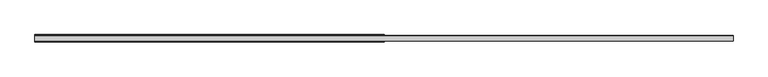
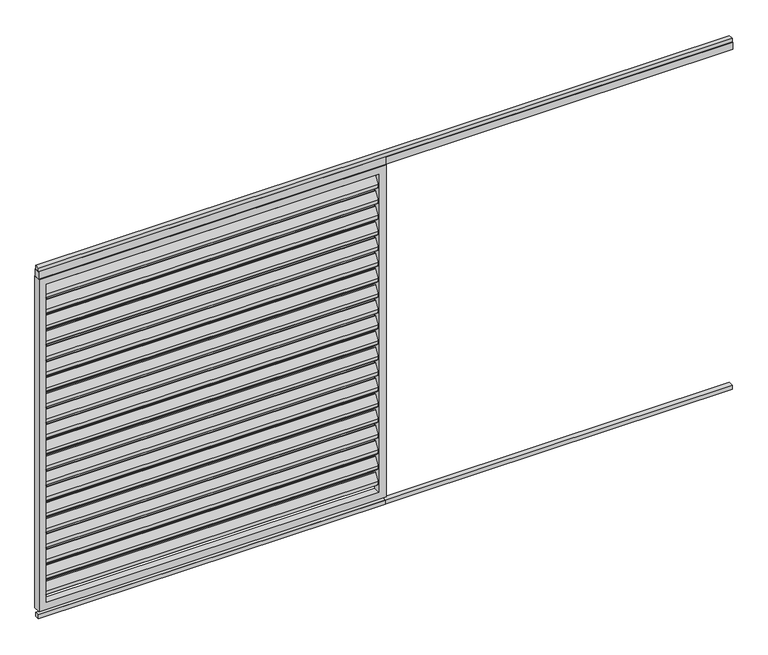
"""IFC4 building model written with IfcOpenShell, lengths in millimetres: proxy geometry, Renson_Algarve_Loggia_Paro_Aluminium : Renson_Algarve_Loggia_Paro_Aluminium."""

from ifc_helpers import new_model, si_unit, point, frame, frame_2d, origin, origin_with_axes, place, context, project, spatial, polyline, circle_curve, trimmed, segment, composite_curve, outline, extrude, source, transform, mapped, element, save


def generic_models_7b957c62(model_context):
    return source(origin(), model_context, "Body", "SweptSolid", [
        extrude(outline(composite_curve([segment(trimmed(circle_curve(frame_2d((12.6675921, 1892.6587719)), 3.0), [point((10.1515804, 1894.292689))], [point((15.6675921, 1892.6587719))], False, "CARTESIAN"), True, "CONTINUOUS"), segment(polyline([(15.6675921, 1892.6587719), (15.6675921, 1874.2979873)]), True, "CONTINUOUS"), segment(trimmed(circle_curve(frame_2d((12.6675921, 1874.2979873)), 3.0), [point((15.6675921, 1874.2979873))], [point((15.1836038, 1872.6640702))], False, "CARTESIAN"), True, "CONTINUOUS"), segment(polyline([(15.1836038, 1872.6640702), (-8.8163962, 1835.707311)]), True, "CONTINUOUS"), segment(trimmed(circle_curve(frame_2d((-11.3324079, 1837.3412281)), 3.0), [point((-8.8163962, 1835.707311))], [point((-14.3324079, 1837.3412281))], False, "CARTESIAN"), True, "CONTINUOUS"), segment(polyline([(-14.3324079, 1837.3412281), (-14.3324079, 1856.5906532), (10.1515804, 1894.292689)]), True, "CONTINUOUS")], self_intersect=False)), frame((-905.0, 0.0, 0.0), z_axis=(1.0, 0.0, 0.0), x_axis=(0.0, 1.0, 0.0)), (0.0, 0.0, 1.0), 1810.0),
        extrude(outline(composite_curve([segment(trimmed(circle_curve(frame_2d((12.6675921, 1802.6587719)), 3.0), [point((10.1515804, 1804.292689))], [point((15.6675921, 1802.6587719))], False, "CARTESIAN"), True, "CONTINUOUS"), segment(polyline([(15.6675921, 1802.6587719), (15.6675921, 1784.2979873)]), True, "CONTINUOUS"), segment(trimmed(circle_curve(frame_2d((12.6675921, 1784.2979873)), 3.0), [point((15.6675921, 1784.2979873))], [point((15.1836038, 1782.6640702))], False, "CARTESIAN"), True, "CONTINUOUS"), segment(polyline([(15.1836038, 1782.6640702), (-8.8163962, 1745.707311)]), True, "CONTINUOUS"), segment(trimmed(circle_curve(frame_2d((-11.3324079, 1747.3412281)), 3.0), [point((-8.8163962, 1745.707311))], [point((-14.3324079, 1747.3412281))], False, "CARTESIAN"), True, "CONTINUOUS"), segment(polyline([(-14.3324079, 1747.3412281), (-14.3324079, 1766.5906532), (10.1515804, 1804.292689)]), True, "CONTINUOUS")], self_intersect=False)), frame((-905.0, 0.0, 0.0), z_axis=(1.0, 0.0, 0.0), x_axis=(0.0, 1.0, 0.0)), (0.0, 0.0, 1.0), 1810.0),
        extrude(outline(composite_curve([segment(trimmed(circle_curve(frame_2d((12.6675921, 1712.6587719)), 3.0), [point((10.1515804, 1714.292689))], [point((15.6675921, 1712.6587719))], False, "CARTESIAN"), True, "CONTINUOUS"), segment(polyline([(15.6675921, 1712.6587719), (15.6675921, 1694.2979873)]), True, "CONTINUOUS"), segment(trimmed(circle_curve(frame_2d((12.6675921, 1694.2979873)), 3.0), [point((15.6675921, 1694.2979873))], [point((15.1836038, 1692.6640702))], False, "CARTESIAN"), True, "CONTINUOUS"), segment(polyline([(15.1836038, 1692.6640702), (-8.8163962, 1655.707311)]), True, "CONTINUOUS"), segment(trimmed(circle_curve(frame_2d((-11.3324079, 1657.3412281)), 3.0), [point((-8.8163962, 1655.707311))], [point((-14.3324079, 1657.3412281))], False, "CARTESIAN"), True, "CONTINUOUS"), segment(polyline([(-14.3324079, 1657.3412281), (-14.3324079, 1676.5906532), (10.1515804, 1714.292689)]), True, "CONTINUOUS")], self_intersect=False)), frame((-905.0, 0.0, 0.0), z_axis=(1.0, 0.0, 0.0), x_axis=(0.0, 1.0, 0.0)), (0.0, 0.0, 1.0), 1810.0),
        extrude(outline(composite_curve([segment(trimmed(circle_curve(frame_2d((12.6675921, 1622.6587719)), 3.0), [point((10.1515804, 1624.292689))], [point((15.6675921, 1622.6587719))], False, "CARTESIAN"), True, "CONTINUOUS"), segment(polyline([(15.6675921, 1622.6587719), (15.6675921, 1604.2979873)]), True, "CONTINUOUS"), segment(trimmed(circle_curve(frame_2d((12.6675921, 1604.2979873)), 3.0), [point((15.6675921, 1604.2979873))], [point((15.1836038, 1602.6640702))], False, "CARTESIAN"), True, "CONTINUOUS"), segment(polyline([(15.1836038, 1602.6640702), (-8.8163962, 1565.707311)]), True, "CONTINUOUS"), segment(trimmed(circle_curve(frame_2d((-11.3324079, 1567.3412281)), 3.0), [point((-8.8163962, 1565.707311))], [point((-14.3324079, 1567.3412281))], False, "CARTESIAN"), True, "CONTINUOUS"), segment(polyline([(-14.3324079, 1567.3412281), (-14.3324079, 1586.5906532), (10.1515804, 1624.292689)]), True, "CONTINUOUS")], self_intersect=False)), frame((-905.0, 0.0, 0.0), z_axis=(1.0, 0.0, 0.0), x_axis=(0.0, 1.0, 0.0)), (0.0, 0.0, 1.0), 1810.0),
        extrude(outline(composite_curve([segment(trimmed(circle_curve(frame_2d((12.6675921, 1532.6587719)), 3.0), [point((10.1515804, 1534.292689))], [point((15.6675921, 1532.6587719))], False, "CARTESIAN"), True, "CONTINUOUS"), segment(polyline([(15.6675921, 1532.6587719), (15.6675921, 1514.2979873)]), True, "CONTINUOUS"), segment(trimmed(circle_curve(frame_2d((12.6675921, 1514.2979873)), 3.0), [point((15.6675921, 1514.2979873))], [point((15.1836038, 1512.6640702))], False, "CARTESIAN"), True, "CONTINUOUS"), segment(polyline([(15.1836038, 1512.6640702), (-8.8163962, 1475.707311)]), True, "CONTINUOUS"), segment(trimmed(circle_curve(frame_2d((-11.3324079, 1477.3412281)), 3.0), [point((-8.8163962, 1475.707311))], [point((-14.3324079, 1477.3412281))], False, "CARTESIAN"), True, "CONTINUOUS"), segment(polyline([(-14.3324079, 1477.3412281), (-14.3324079, 1496.5906532), (10.1515804, 1534.292689)]), True, "CONTINUOUS")], self_intersect=False)), frame((-905.0, 0.0, 0.0), z_axis=(1.0, 0.0, 0.0), x_axis=(0.0, 1.0, 0.0)), (0.0, 0.0, 1.0), 1810.0),
        extrude(outline(composite_curve([segment(trimmed(circle_curve(frame_2d((12.6675921, 1442.6587719)), 3.0), [point((10.1515804, 1444.292689))], [point((15.6675921, 1442.6587719))], False, "CARTESIAN"), True, "CONTINUOUS"), segment(polyline([(15.6675921, 1442.6587719), (15.6675921, 1424.2979873)]), True, "CONTINUOUS"), segment(trimmed(circle_curve(frame_2d((12.6675921, 1424.2979873)), 3.0), [point((15.6675921, 1424.2979873))], [point((15.1836038, 1422.6640702))], False, "CARTESIAN"), True, "CONTINUOUS"), segment(polyline([(15.1836038, 1422.6640702), (-8.8163962, 1385.707311)]), True, "CONTINUOUS"), segment(trimmed(circle_curve(frame_2d((-11.3324079, 1387.3412281)), 3.0), [point((-8.8163962, 1385.707311))], [point((-14.3324079, 1387.3412281))], False, "CARTESIAN"), True, "CONTINUOUS"), segment(polyline([(-14.3324079, 1387.3412281), (-14.3324079, 1406.5906532), (10.1515804, 1444.292689)]), True, "CONTINUOUS")], self_intersect=False)), frame((-905.0, 0.0, 0.0), z_axis=(1.0, 0.0, 0.0), x_axis=(0.0, 1.0, 0.0)), (0.0, 0.0, 1.0), 1810.0),
        extrude(outline(composite_curve([segment(trimmed(circle_curve(frame_2d((12.6675921, 1352.6587719)), 3.0), [point((10.1515804, 1354.292689))], [point((15.6675921, 1352.6587719))], False, "CARTESIAN"), True, "CONTINUOUS"), segment(polyline([(15.6675921, 1352.6587719), (15.6675921, 1334.2979873)]), True, "CONTINUOUS"), segment(trimmed(circle_curve(frame_2d((12.6675921, 1334.2979873)), 3.0), [point((15.6675921, 1334.2979873))], [point((15.1836038, 1332.6640702))], False, "CARTESIAN"), True, "CONTINUOUS"), segment(polyline([(15.1836038, 1332.6640702), (-8.8163962, 1295.707311)]), True, "CONTINUOUS"), segment(trimmed(circle_curve(frame_2d((-11.3324079, 1297.3412281)), 3.0), [point((-8.8163962, 1295.707311))], [point((-14.3324079, 1297.3412281))], False, "CARTESIAN"), True, "CONTINUOUS"), segment(polyline([(-14.3324079, 1297.3412281), (-14.3324079, 1316.5906532), (10.1515804, 1354.292689)]), True, "CONTINUOUS")], self_intersect=False)), frame((-905.0, 0.0, 0.0), z_axis=(1.0, 0.0, 0.0), x_axis=(0.0, 1.0, 0.0)), (0.0, 0.0, 1.0), 1810.0),
        extrude(outline(composite_curve([segment(trimmed(circle_curve(frame_2d((12.6675921, 1262.6587719)), 3.0), [point((10.1515804, 1264.292689))], [point((15.6675921, 1262.6587719))], False, "CARTESIAN"), True, "CONTINUOUS"), segment(polyline([(15.6675921, 1262.6587719), (15.6675921, 1244.2979873)]), True, "CONTINUOUS"), segment(trimmed(circle_curve(frame_2d((12.6675921, 1244.2979873)), 3.0), [point((15.6675921, 1244.2979873))], [point((15.1836038, 1242.6640702))], False, "CARTESIAN"), True, "CONTINUOUS"), segment(polyline([(15.1836038, 1242.6640702), (-8.8163962, 1205.707311)]), True, "CONTINUOUS"), segment(trimmed(circle_curve(frame_2d((-11.3324079, 1207.3412281)), 3.0), [point((-8.8163962, 1205.707311))], [point((-14.3324079, 1207.3412281))], False, "CARTESIAN"), True, "CONTINUOUS"), segment(polyline([(-14.3324079, 1207.3412281), (-14.3324079, 1226.5906532), (10.1515804, 1264.292689)]), True, "CONTINUOUS")], self_intersect=False)), frame((-905.0, 0.0, 0.0), z_axis=(1.0, 0.0, 0.0), x_axis=(0.0, 1.0, 0.0)), (0.0, 0.0, 1.0), 1810.0),
        extrude(outline(composite_curve([segment(trimmed(circle_curve(frame_2d((12.6675921, 1172.6587719)), 3.0), [point((10.1515804, 1174.292689))], [point((15.6675921, 1172.6587719))], False, "CARTESIAN"), True, "CONTINUOUS"), segment(polyline([(15.6675921, 1172.6587719), (15.6675921, 1154.2979873)]), True, "CONTINUOUS"), segment(trimmed(circle_curve(frame_2d((12.6675921, 1154.2979873)), 3.0), [point((15.6675921, 1154.2979873))], [point((15.1836038, 1152.6640702))], False, "CARTESIAN"), True, "CONTINUOUS"), segment(polyline([(15.1836038, 1152.6640702), (-8.8163962, 1115.707311)]), True, "CONTINUOUS"), segment(trimmed(circle_curve(frame_2d((-11.3324079, 1117.3412281)), 3.0), [point((-8.8163962, 1115.707311))], [point((-14.3324079, 1117.3412281))], False, "CARTESIAN"), True, "CONTINUOUS"), segment(polyline([(-14.3324079, 1117.3412281), (-14.3324079, 1136.5906532), (10.1515804, 1174.292689)]), True, "CONTINUOUS")], self_intersect=False)), frame((-905.0, 0.0, 0.0), z_axis=(1.0, 0.0, 0.0), x_axis=(0.0, 1.0, 0.0)), (0.0, 0.0, 1.0), 1810.0),
        extrude(outline(composite_curve([segment(trimmed(circle_curve(frame_2d((12.6675921, 1082.6587719)), 3.0), [point((10.1515804, 1084.292689))], [point((15.6675921, 1082.6587719))], False, "CARTESIAN"), True, "CONTINUOUS"), segment(polyline([(15.6675921, 1082.6587719), (15.6675921, 1064.2979873)]), True, "CONTINUOUS"), segment(trimmed(circle_curve(frame_2d((12.6675921, 1064.2979873)), 3.0), [point((15.6675921, 1064.2979873))], [point((15.1836038, 1062.6640702))], False, "CARTESIAN"), True, "CONTINUOUS"), segment(polyline([(15.1836038, 1062.6640702), (-8.8163962, 1025.707311)]), True, "CONTINUOUS"), segment(trimmed(circle_curve(frame_2d((-11.3324079, 1027.3412281)), 3.0), [point((-8.8163962, 1025.707311))], [point((-14.3324079, 1027.3412281))], False, "CARTESIAN"), True, "CONTINUOUS"), segment(polyline([(-14.3324079, 1027.3412281), (-14.3324079, 1046.5906532), (10.1515804, 1084.292689)]), True, "CONTINUOUS")], self_intersect=False)), frame((-905.0, 0.0, 0.0), z_axis=(1.0, 0.0, 0.0), x_axis=(0.0, 1.0, 0.0)), (0.0, 0.0, 1.0), 1810.0),
        extrude(outline(composite_curve([segment(trimmed(circle_curve(frame_2d((12.6675921, 992.6587719)), 3.0), [point((10.1515804, 994.292689))], [point((15.6675921, 992.6587719))], False, "CARTESIAN"), True, "CONTINUOUS"), segment(polyline([(15.6675921, 992.6587719), (15.6675921, 974.2979873)]), True, "CONTINUOUS"), segment(trimmed(circle_curve(frame_2d((12.6675921, 974.2979873)), 3.0), [point((15.6675921, 974.2979873))], [point((15.1836038, 972.6640702))], False, "CARTESIAN"), True, "CONTINUOUS"), segment(polyline([(15.1836038, 972.6640702), (-8.8163962, 935.707311)]), True, "CONTINUOUS"), segment(trimmed(circle_curve(frame_2d((-11.3324079, 937.3412281)), 3.0), [point((-8.8163962, 935.707311))], [point((-14.3324079, 937.3412281))], False, "CARTESIAN"), True, "CONTINUOUS"), segment(polyline([(-14.3324079, 937.3412281), (-14.3324079, 956.5906532), (10.1515804, 994.292689)]), True, "CONTINUOUS")], self_intersect=False)), frame((-905.0, 0.0, 0.0), z_axis=(1.0, 0.0, 0.0), x_axis=(0.0, 1.0, 0.0)), (0.0, 0.0, 1.0), 1810.0),
        extrude(outline(composite_curve([segment(trimmed(circle_curve(frame_2d((12.6675921, 902.6587719)), 3.0), [point((10.1515804, 904.292689))], [point((15.6675921, 902.6587719))], False, "CARTESIAN"), True, "CONTINUOUS"), segment(polyline([(15.6675921, 902.6587719), (15.6675921, 884.2979873)]), True, "CONTINUOUS"), segment(trimmed(circle_curve(frame_2d((12.6675921, 884.2979873)), 3.0), [point((15.6675921, 884.2979873))], [point((15.1836038, 882.6640702))], False, "CARTESIAN"), True, "CONTINUOUS"), segment(polyline([(15.1836038, 882.6640702), (-8.8163962, 845.707311)]), True, "CONTINUOUS"), segment(trimmed(circle_curve(frame_2d((-11.3324079, 847.3412281)), 3.0), [point((-8.8163962, 845.707311))], [point((-14.3324079, 847.3412281))], False, "CARTESIAN"), True, "CONTINUOUS"), segment(polyline([(-14.3324079, 847.3412281), (-14.3324079, 866.5906532), (10.1515804, 904.292689)]), True, "CONTINUOUS")], self_intersect=False)), frame((-905.0, 0.0, 0.0), z_axis=(1.0, 0.0, 0.0), x_axis=(0.0, 1.0, 0.0)), (0.0, 0.0, 1.0), 1810.0),
        extrude(outline(composite_curve([segment(trimmed(circle_curve(frame_2d((12.6675921, 812.6587719)), 3.0), [point((10.1515804, 814.292689))], [point((15.6675921, 812.6587719))], False, "CARTESIAN"), True, "CONTINUOUS"), segment(polyline([(15.6675921, 812.6587719), (15.6675921, 794.2979873)]), True, "CONTINUOUS"), segment(trimmed(circle_curve(frame_2d((12.6675921, 794.2979873)), 3.0), [point((15.6675921, 794.2979873))], [point((15.1836038, 792.6640702))], False, "CARTESIAN"), True, "CONTINUOUS"), segment(polyline([(15.1836038, 792.6640702), (-8.8163962, 755.707311)]), True, "CONTINUOUS"), segment(trimmed(circle_curve(frame_2d((-11.3324079, 757.3412281)), 3.0), [point((-8.8163962, 755.707311))], [point((-14.3324079, 757.3412281))], False, "CARTESIAN"), True, "CONTINUOUS"), segment(polyline([(-14.3324079, 757.3412281), (-14.3324079, 776.5906532), (10.1515804, 814.292689)]), True, "CONTINUOUS")], self_intersect=False)), frame((-905.0, 0.0, 0.0), z_axis=(1.0, 0.0, 0.0), x_axis=(0.0, 1.0, 0.0)), (0.0, 0.0, 1.0), 1810.0),
        extrude(outline(composite_curve([segment(trimmed(circle_curve(frame_2d((12.6675921, 722.6587719)), 3.0), [point((10.1515804, 724.292689))], [point((15.6675921, 722.6587719))], False, "CARTESIAN"), True, "CONTINUOUS"), segment(polyline([(15.6675921, 722.6587719), (15.6675921, 704.2979873)]), True, "CONTINUOUS"), segment(trimmed(circle_curve(frame_2d((12.6675921, 704.2979873)), 3.0), [point((15.6675921, 704.2979873))], [point((15.1836038, 702.6640702))], False, "CARTESIAN"), True, "CONTINUOUS"), segment(polyline([(15.1836038, 702.6640702), (-8.8163962, 665.707311)]), True, "CONTINUOUS"), segment(trimmed(circle_curve(frame_2d((-11.3324079, 667.3412281)), 3.0), [point((-8.8163962, 665.707311))], [point((-14.3324079, 667.3412281))], False, "CARTESIAN"), True, "CONTINUOUS"), segment(polyline([(-14.3324079, 667.3412281), (-14.3324079, 686.5906532), (10.1515804, 724.292689)]), True, "CONTINUOUS")], self_intersect=False)), frame((-905.0, 0.0, 0.0), z_axis=(1.0, 0.0, 0.0), x_axis=(0.0, 1.0, 0.0)), (0.0, 0.0, 1.0), 1810.0),
        extrude(outline(composite_curve([segment(trimmed(circle_curve(frame_2d((12.6675921, 632.6587719)), 3.0), [point((10.1515804, 634.292689))], [point((15.6675921, 632.6587719))], False, "CARTESIAN"), True, "CONTINUOUS"), segment(polyline([(15.6675921, 632.6587719), (15.6675921, 614.2979873)]), True, "CONTINUOUS"), segment(trimmed(circle_curve(frame_2d((12.6675921, 614.2979873)), 3.0), [point((15.6675921, 614.2979873))], [point((15.1836038, 612.6640702))], False, "CARTESIAN"), True, "CONTINUOUS"), segment(polyline([(15.1836038, 612.6640702), (-8.8163962, 575.707311)]), True, "CONTINUOUS"), segment(trimmed(circle_curve(frame_2d((-11.3324079, 577.3412281)), 3.0), [point((-8.8163962, 575.707311))], [point((-14.3324079, 577.3412281))], False, "CARTESIAN"), True, "CONTINUOUS"), segment(polyline([(-14.3324079, 577.3412281), (-14.3324079, 596.5906532), (10.1515804, 634.292689)]), True, "CONTINUOUS")], self_intersect=False)), frame((-905.0, 0.0, 0.0), z_axis=(1.0, 0.0, 0.0), x_axis=(0.0, 1.0, 0.0)), (0.0, 0.0, 1.0), 1810.0),
        extrude(outline(composite_curve([segment(trimmed(circle_curve(frame_2d((12.6675921, 542.6587719)), 3.0), [point((10.1515804, 544.292689))], [point((15.6675921, 542.6587719))], False, "CARTESIAN"), True, "CONTINUOUS"), segment(polyline([(15.6675921, 542.6587719), (15.6675921, 524.2979873)]), True, "CONTINUOUS"), segment(trimmed(circle_curve(frame_2d((12.6675921, 524.2979873)), 3.0), [point((15.6675921, 524.2979873))], [point((15.1836038, 522.6640702))], False, "CARTESIAN"), True, "CONTINUOUS"), segment(polyline([(15.1836038, 522.6640702), (-8.8163962, 485.707311)]), True, "CONTINUOUS"), segment(trimmed(circle_curve(frame_2d((-11.3324079, 487.3412281)), 3.0), [point((-8.8163962, 485.707311))], [point((-14.3324079, 487.3412281))], False, "CARTESIAN"), True, "CONTINUOUS"), segment(polyline([(-14.3324079, 487.3412281), (-14.3324079, 506.5906532), (10.1515804, 544.292689)]), True, "CONTINUOUS")], self_intersect=False)), frame((-905.0, 0.0, 0.0), z_axis=(1.0, 0.0, 0.0), x_axis=(0.0, 1.0, 0.0)), (0.0, 0.0, 1.0), 1810.0),
        extrude(outline(composite_curve([segment(trimmed(circle_curve(frame_2d((12.6675921, 452.6587719)), 3.0), [point((10.1515804, 454.292689))], [point((15.6675921, 452.6587719))], False, "CARTESIAN"), True, "CONTINUOUS"), segment(polyline([(15.6675921, 452.6587719), (15.6675921, 434.2979873)]), True, "CONTINUOUS"), segment(trimmed(circle_curve(frame_2d((12.6675921, 434.2979873)), 3.0), [point((15.6675921, 434.2979873))], [point((15.1836038, 432.6640702))], False, "CARTESIAN"), True, "CONTINUOUS"), segment(polyline([(15.1836038, 432.6640702), (-8.8163962, 395.707311)]), True, "CONTINUOUS"), segment(trimmed(circle_curve(frame_2d((-11.3324079, 397.3412281)), 3.0), [point((-8.8163962, 395.707311))], [point((-14.3324079, 397.3412281))], False, "CARTESIAN"), True, "CONTINUOUS"), segment(polyline([(-14.3324079, 397.3412281), (-14.3324079, 416.5906532), (10.1515804, 454.292689)]), True, "CONTINUOUS")], self_intersect=False)), frame((-905.0, 0.0, 0.0), z_axis=(1.0, 0.0, 0.0), x_axis=(0.0, 1.0, 0.0)), (0.0, 0.0, 1.0), 1810.0),
        extrude(outline(composite_curve([segment(trimmed(circle_curve(frame_2d((12.6675921, 362.6587719)), 3.0), [point((10.1515804, 364.292689))], [point((15.6675921, 362.6587719))], False, "CARTESIAN"), True, "CONTINUOUS"), segment(polyline([(15.6675921, 362.6587719), (15.6675921, 344.2979873)]), True, "CONTINUOUS"), segment(trimmed(circle_curve(frame_2d((12.6675921, 344.2979873)), 3.0), [point((15.6675921, 344.2979873))], [point((15.1836038, 342.6640702))], False, "CARTESIAN"), True, "CONTINUOUS"), segment(polyline([(15.1836038, 342.6640702), (-8.8163962, 305.707311)]), True, "CONTINUOUS"), segment(trimmed(circle_curve(frame_2d((-11.3324079, 307.3412281)), 3.0), [point((-8.8163962, 305.707311))], [point((-14.3324079, 307.3412281))], False, "CARTESIAN"), True, "CONTINUOUS"), segment(polyline([(-14.3324079, 307.3412281), (-14.3324079, 326.5906532), (10.1515804, 364.292689)]), True, "CONTINUOUS")], self_intersect=False)), frame((-905.0, 0.0, 0.0), z_axis=(1.0, 0.0, 0.0), x_axis=(0.0, 1.0, 0.0)), (0.0, 0.0, 1.0), 1810.0),
        extrude(outline(composite_curve([segment(trimmed(circle_curve(frame_2d((12.6675921, 272.6587719)), 3.0), [point((10.1515804, 274.292689))], [point((15.6675921, 272.6587719))], False, "CARTESIAN"), True, "CONTINUOUS"), segment(polyline([(15.6675921, 272.6587719), (15.6675921, 254.2979873)]), True, "CONTINUOUS"), segment(trimmed(circle_curve(frame_2d((12.6675921, 254.2979873)), 3.0), [point((15.6675921, 254.2979873))], [point((15.1836038, 252.6640702))], False, "CARTESIAN"), True, "CONTINUOUS"), segment(polyline([(15.1836038, 252.6640702), (-8.8163962, 215.707311)]), True, "CONTINUOUS"), segment(trimmed(circle_curve(frame_2d((-11.3324079, 217.3412281)), 3.0), [point((-8.8163962, 215.707311))], [point((-14.3324079, 217.3412281))], False, "CARTESIAN"), True, "CONTINUOUS"), segment(polyline([(-14.3324079, 217.3412281), (-14.3324079, 236.5906532), (10.1515804, 274.292689)]), True, "CONTINUOUS")], self_intersect=False)), frame((-905.0, 0.0, 0.0), z_axis=(1.0, 0.0, 0.0), x_axis=(0.0, 1.0, 0.0)), (0.0, 0.0, 1.0), 1810.0),
        extrude(outline(composite_curve([segment(trimmed(circle_curve(frame_2d((12.6675921, 182.6587719)), 3.0), [point((10.1515804, 184.292689))], [point((15.6675921, 182.6587719))], False, "CARTESIAN"), True, "CONTINUOUS"), segment(polyline([(15.6675921, 182.6587719), (15.6675921, 164.2979873)]), True, "CONTINUOUS"), segment(trimmed(circle_curve(frame_2d((12.6675921, 164.2979873)), 3.0), [point((15.6675921, 164.2979873))], [point((15.1836038, 162.6640702))], False, "CARTESIAN"), True, "CONTINUOUS"), segment(polyline([(15.1836038, 162.6640702), (-8.8163962, 125.707311)]), True, "CONTINUOUS"), segment(trimmed(circle_curve(frame_2d((-11.3324079, 127.3412281)), 3.0), [point((-8.8163962, 125.707311))], [point((-14.3324079, 127.3412281))], False, "CARTESIAN"), True, "CONTINUOUS"), segment(polyline([(-14.3324079, 127.3412281), (-14.3324079, 146.5906532), (10.1515804, 184.292689)]), True, "CONTINUOUS")], self_intersect=False)), frame((-905.0, 0.0, 0.0), z_axis=(1.0, 0.0, 0.0), x_axis=(0.0, 1.0, 0.0)), (0.0, 0.0, 1.0), 1810.0),
        extrude(outline(polyline([(2835.0, -13.0), (-945.0, -13.0), (-945.0, 14.0), (2835.0, 14.0), (2835.0, -13.0)])), frame((0.0, 0.0, 2000.0), z_axis=(0.0, 0.0, 1.0), x_axis=(1.0, 0.0, 0.0)), (0.0, 0.0, 1.0), 20.0),
        extrude(outline(polyline([(945.0, 15.0), (945.0, -15.0), (-945.0, -15.0), (-945.0, 15.0), (945.0, 15.0)])), frame((0.0, 0.0, 1957.7138321), z_axis=(0.0, 0.0, 1.0), x_axis=(1.0, 0.0, 0.0)), (0.0, 0.0, 1.0), 42.2861679),
        extrude(outline(polyline([(2835.0, 15.0), (2835.0, -15.0), (-945.0, -15.0), (-945.0, 15.0), (2835.0, 15.0)])), frame((0.0, 0.0, 1957.7138321), z_axis=(0.0, 0.0, 1.0), x_axis=(1.0, 0.0, 0.0)), (0.0, 0.0, 1.0), 42.2861679),
        extrude(outline(polyline([(945.0, -13.0), (-945.0, -13.0), (-945.0, 14.0), (945.0, 14.0), (945.0, -13.0)])), origin_with_axes(), (0.0, 0.0, 1.0), 23.0),
        extrude(outline(polyline([(2835.0, -13.0), (-945.0, -13.0), (-945.0, 14.0), (2835.0, 14.0), (2835.0, -13.0)])), origin_with_axes(), (0.0, 0.0, 1.0), 23.0),
        extrude(outline(polyline([(1957.7138321, -945.0), (45.0, -945.0), (45.0, 945.0), (1957.7138321, 945.0), (1957.7138321, -945.0)]), holes=[polyline([(1917.7138321, 905.0), (85.0, 905.0), (85.0, -905.0), (1917.7138321, -905.0), (1917.7138321, 905.0)])]), frame((0.0, -20.0, 0.0), z_axis=(0.0, 1.0, 0.0), x_axis=(0.0, 0.0, 1.0)), (0.0, 0.0, 1.0), 40.0),
    ])


if __name__ == "__main__":
    model = new_model("IFC4")
    model_context = context("Model", 3, world=origin())
    ifc_project = project(units=[si_unit("LENGTHUNIT", "METRE", prefix="MILLI")], contexts=[model_context])
    site = spatial("IfcSite", under=ifc_project)
    building = spatial("IfcBuilding", under=site)
    placement = place(None, origin())
    generic_models_shape = generic_models_7b957c62(model_context)
    element("IfcBuildingElementProxy", 1, Name="Renson_Algarve_Loggia_Paro_Aluminium : Renson_Algarve_Loggia_Paro_Aluminium", ObjectType="Renson_Algarve_Loggia_Paro_Aluminium : Renson_Algarve_Loggia_Paro_Aluminium", at=placement, inside=building, context=model_context, shape_type="MappedRepresentation", body=[
        mapped(generic_models_shape, transform((0.0, 0.0, 0.0), x_axis=(1.0, 0.0, 0.0), y_axis=(0.0, 1.0, 0.0), z_axis=(0.0, 0.0, 1.0))),
    ])
    save(model, "model.ifc")
